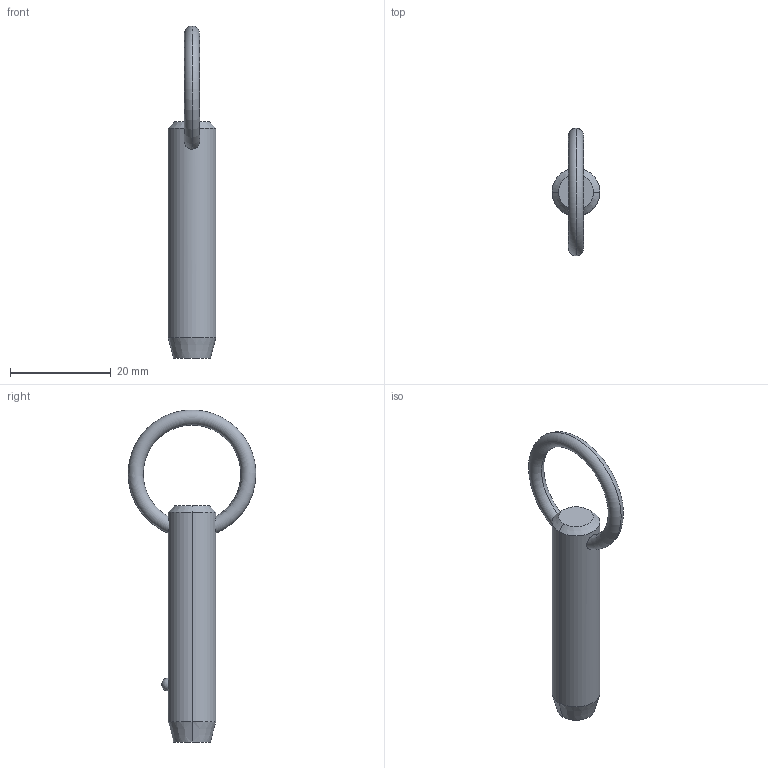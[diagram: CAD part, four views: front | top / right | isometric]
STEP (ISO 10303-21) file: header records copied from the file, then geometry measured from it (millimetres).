
FILE_DESCRIPTION (( 'STEP AP203' ), '1' );
FILE_NAME ('P1250.037-110.step', '2019-07-29T19:59:20', ( '' ), ( '' ), 'SwSTEP 2.0', 'SolidWorks 2017', '' );
FILE_SCHEMA (( 'CONFIG_CONTROL_DESIGN' ));
Length unit declared in the file: millimetre
Products named in the file (1): P1250.037-110
Bounding box: 9.52 x 25.39 x 66 mm (x, y, z)
Volume: 3693.1 mm3; surface area: 2046.4 mm2
Topology: 1 solids, 1 shells, 12 faces, 28 edges, 17 vertices
Faces by surface type: cone 4, torus 2, sphere 2, cylinder 2, plane 2
Entity records: 523 total; most frequent: CARTESIAN_POINT 190, DIRECTION 56, ORIENTED_EDGE 48, AXIS2_PLACEMENT_3D 25, EDGE_CURVE 24, VERTEX_POINT 15, EDGE_LOOP 15, CIRCLE 12
